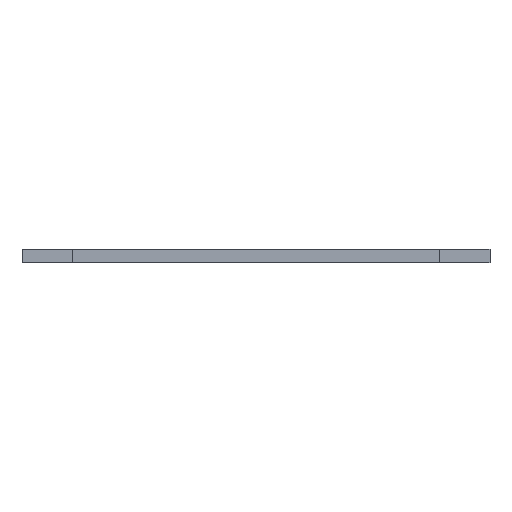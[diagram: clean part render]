
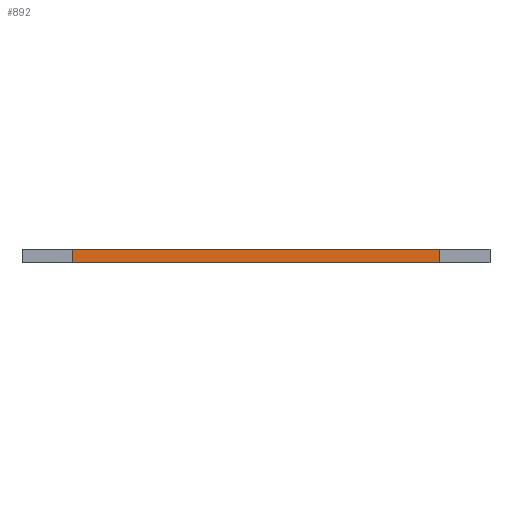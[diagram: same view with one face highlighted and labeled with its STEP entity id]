
A CAD part, left-side view. The second image highlights one B-rep face of the part: STEP entity #892.
In plain terms, the highlighted planar face has unit normal (-1, 0, 0).
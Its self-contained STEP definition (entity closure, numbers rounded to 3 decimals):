
#21 = EDGE_CURVE('',#22,#24,#26,.T.);
#22 = VERTEX_POINT('',#23);
#23 = CARTESIAN_POINT('',(0.,0.,13.));
#24 = VERTEX_POINT('',#25);
#25 = CARTESIAN_POINT('',(0.,0.,14.5));
#26 = SURFACE_CURVE('',#27,(#31,#43),.PCURVE_S1.);
#27 = LINE('',#28,#29);
#28 = CARTESIAN_POINT('',(0.,0.,13.));
#29 = VECTOR('',#30,1.);
#30 = DIRECTION('',(0.,0.,1.));
#31 = PCURVE('',#32,#37);
#32 = PLANE('',#33);
#33 = AXIS2_PLACEMENT_3D('',#34,#35,#36);
#34 = CARTESIAN_POINT('',(0.,0.,13.));
#35 = DIRECTION('',(0.,1.,0.));
#36 = DIRECTION('',(1.,0.,0.));
#37 = DEFINITIONAL_REPRESENTATION('',(#38),#42);
#38 = LINE('',#39,#40);
#39 = CARTESIAN_POINT('',(0.,0.));
#40 = VECTOR('',#41,1.);
#41 = DIRECTION('',(0.,-1.));
#42 = ( GEOMETRIC_REPRESENTATION_CONTEXT(2) 
PARAMETRIC_REPRESENTATION_CONTEXT() REPRESENTATION_CONTEXT('2D SPACE',''
  ) );
#43 = PCURVE('',#44,#49);
#44 = PLANE('',#45);
#45 = AXIS2_PLACEMENT_3D('',#46,#47,#48);
#46 = CARTESIAN_POINT('',(0.,-40.,13.));
#47 = DIRECTION('',(-1.,0.,0.));
#48 = DIRECTION('',(0.,1.,0.));
#49 = DEFINITIONAL_REPRESENTATION('',(#50),#54);
#50 = LINE('',#51,#52);
#51 = CARTESIAN_POINT('',(40.,0.));
#52 = VECTOR('',#53,1.);
#53 = DIRECTION('',(0.,-1.));
#54 = ( GEOMETRIC_REPRESENTATION_CONTEXT(2) 
PARAMETRIC_REPRESENTATION_CONTEXT() REPRESENTATION_CONTEXT('2D SPACE',''
  ) );
#72 = PLANE('',#73);
#73 = AXIS2_PLACEMENT_3D('',#74,#75,#76);
#74 = CARTESIAN_POINT('',(30.,-20.,14.5));
#75 = DIRECTION('',(-0.,-0.,-1.));
#76 = DIRECTION('',(-1.,0.,0.));
#126 = PLANE('',#127);
#127 = AXIS2_PLACEMENT_3D('',#128,#129,#130);
#128 = CARTESIAN_POINT('',(30.,-20.,13.));
#129 = DIRECTION('',(-0.,-0.,-1.));
#130 = DIRECTION('',(-1.,0.,0.));
#789 = PLANE('',#790);
#790 = AXIS2_PLACEMENT_3D('',#791,#792,#793);
#791 = CARTESIAN_POINT('',(25.,-40.,13.));
#792 = DIRECTION('',(0.,-1.,0.));
#793 = DIRECTION('',(-1.,0.,0.));
#827 = VERTEX_POINT('',#828);
#828 = CARTESIAN_POINT('',(0.,-40.,14.5));
#849 = EDGE_CURVE('',#850,#827,#852,.T.);
#850 = VERTEX_POINT('',#851);
#851 = CARTESIAN_POINT('',(0.,-40.,13.));
#852 = SURFACE_CURVE('',#853,(#857,#864),.PCURVE_S1.);
#853 = LINE('',#854,#855);
#854 = CARTESIAN_POINT('',(0.,-40.,13.));
#855 = VECTOR('',#856,1.);
#856 = DIRECTION('',(0.,0.,1.));
#857 = PCURVE('',#789,#858);
#858 = DEFINITIONAL_REPRESENTATION('',(#859),#863);
#859 = LINE('',#860,#861);
#860 = CARTESIAN_POINT('',(25.,0.));
#861 = VECTOR('',#862,1.);
#862 = DIRECTION('',(0.,-1.));
#863 = ( GEOMETRIC_REPRESENTATION_CONTEXT(2) 
PARAMETRIC_REPRESENTATION_CONTEXT() REPRESENTATION_CONTEXT('2D SPACE',''
  ) );
#864 = PCURVE('',#44,#865);
#865 = DEFINITIONAL_REPRESENTATION('',(#866),#870);
#866 = LINE('',#867,#868);
#867 = CARTESIAN_POINT('',(0.,0.));
#868 = VECTOR('',#869,1.);
#869 = DIRECTION('',(0.,-1.));
#870 = ( GEOMETRIC_REPRESENTATION_CONTEXT(2) 
PARAMETRIC_REPRESENTATION_CONTEXT() REPRESENTATION_CONTEXT('2D SPACE',''
  ) );
#892 = ADVANCED_FACE('',(#893),#44,.T.);
#893 = FACE_BOUND('',#894,.T.);
#894 = EDGE_LOOP('',(#895,#896,#917,#918));
#895 = ORIENTED_EDGE('',*,*,#849,.T.);
#896 = ORIENTED_EDGE('',*,*,#897,.T.);
#897 = EDGE_CURVE('',#827,#24,#898,.T.);
#898 = SURFACE_CURVE('',#899,(#903,#910),.PCURVE_S1.);
#899 = LINE('',#900,#901);
#900 = CARTESIAN_POINT('',(0.,-40.,14.5));
#901 = VECTOR('',#902,1.);
#902 = DIRECTION('',(0.,1.,0.));
#903 = PCURVE('',#44,#904);
#904 = DEFINITIONAL_REPRESENTATION('',(#905),#909);
#905 = LINE('',#906,#907);
#906 = CARTESIAN_POINT('',(0.,-1.5));
#907 = VECTOR('',#908,1.);
#908 = DIRECTION('',(1.,0.));
#909 = ( GEOMETRIC_REPRESENTATION_CONTEXT(2) 
PARAMETRIC_REPRESENTATION_CONTEXT() REPRESENTATION_CONTEXT('2D SPACE',''
  ) );
#910 = PCURVE('',#72,#911);
#911 = DEFINITIONAL_REPRESENTATION('',(#912),#916);
#912 = LINE('',#913,#914);
#913 = CARTESIAN_POINT('',(30.,-20.));
#914 = VECTOR('',#915,1.);
#915 = DIRECTION('',(0.,1.));
#916 = ( GEOMETRIC_REPRESENTATION_CONTEXT(2) 
PARAMETRIC_REPRESENTATION_CONTEXT() REPRESENTATION_CONTEXT('2D SPACE',''
  ) );
#917 = ORIENTED_EDGE('',*,*,#21,.F.);
#918 = ORIENTED_EDGE('',*,*,#919,.F.);
#919 = EDGE_CURVE('',#850,#22,#920,.T.);
#920 = SURFACE_CURVE('',#921,(#925,#932),.PCURVE_S1.);
#921 = LINE('',#922,#923);
#922 = CARTESIAN_POINT('',(0.,-40.,13.));
#923 = VECTOR('',#924,1.);
#924 = DIRECTION('',(0.,1.,0.));
#925 = PCURVE('',#44,#926);
#926 = DEFINITIONAL_REPRESENTATION('',(#927),#931);
#927 = LINE('',#928,#929);
#928 = CARTESIAN_POINT('',(0.,0.));
#929 = VECTOR('',#930,1.);
#930 = DIRECTION('',(1.,0.));
#931 = ( GEOMETRIC_REPRESENTATION_CONTEXT(2) 
PARAMETRIC_REPRESENTATION_CONTEXT() REPRESENTATION_CONTEXT('2D SPACE',''
  ) );
#932 = PCURVE('',#126,#933);
#933 = DEFINITIONAL_REPRESENTATION('',(#934),#938);
#934 = LINE('',#935,#936);
#935 = CARTESIAN_POINT('',(30.,-20.));
#936 = VECTOR('',#937,1.);
#937 = DIRECTION('',(0.,1.));
#938 = ( GEOMETRIC_REPRESENTATION_CONTEXT(2) 
PARAMETRIC_REPRESENTATION_CONTEXT() REPRESENTATION_CONTEXT('2D SPACE',''
  ) );
